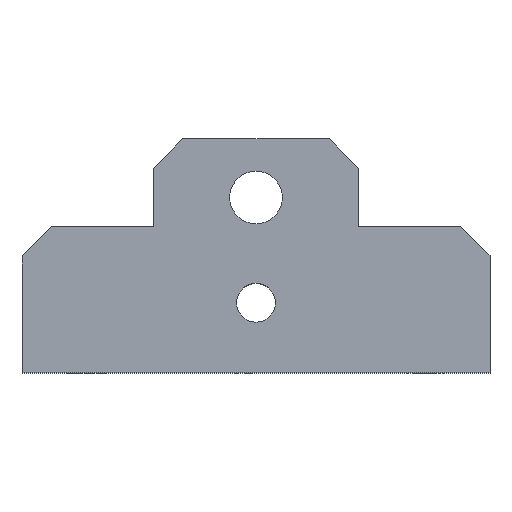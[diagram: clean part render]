
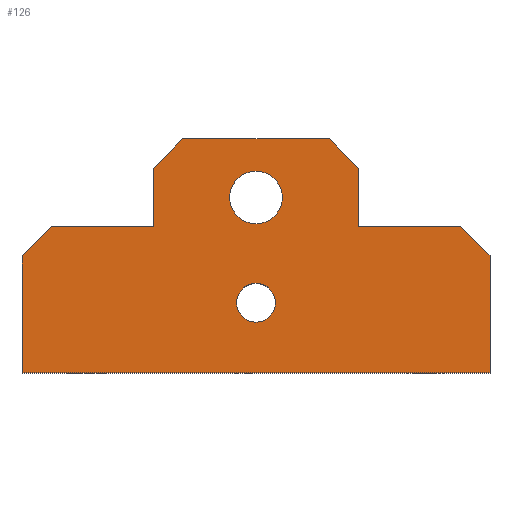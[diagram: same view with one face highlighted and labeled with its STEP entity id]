
A CAD part, top view. The second image highlights one B-rep face of the part: STEP entity #126.
In plain terms, the highlighted planar face has unit normal (0, 0, 1).
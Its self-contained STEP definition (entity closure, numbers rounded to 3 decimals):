
#10 = CARTESIAN_POINT ( 'NONE',  ( 40., -12.5, 6.5 ) ) ;
#13 = DIRECTION ( 'NONE',  ( 0., -1., 0. ) ) ;
#19 = DIRECTION ( 'NONE',  ( -0.707, 0.707, 0. ) ) ;
#25 = EDGE_CURVE ( 'NONE', #77, #579, #806, .T. ) ;
#38 = VECTOR ( 'NONE', #504, 1000. ) ;
#46 = VERTEX_POINT ( 'NONE', #402 ) ;
#65 = FACE_BOUND ( 'NONE', #282, .T. ) ;
#68 = VERTEX_POINT ( 'NONE', #418 ) ;
#72 = CARTESIAN_POINT ( 'NONE',  ( -40., 7.5, 6.5 ) ) ;
#77 = VERTEX_POINT ( 'NONE', #111 ) ;
#91 = ORIENTED_EDGE ( 'NONE', *, *, #25, .F. ) ;
#94 = CARTESIAN_POINT ( 'NONE',  ( 35., 12.5, 6.5 ) ) ;
#108 = ORIENTED_EDGE ( 'NONE', *, *, #853, .T. ) ;
#111 = CARTESIAN_POINT ( 'NONE',  ( 4.5, 17.5, 6.5 ) ) ;
#112 = CARTESIAN_POINT ( 'NONE',  ( -40., -12.5, 6.5 ) ) ;
#115 = EDGE_CURVE ( 'NONE', #130, #354, #869, .T. ) ;
#117 = ORIENTED_EDGE ( 'NONE', *, *, #396, .T. ) ;
#120 = ORIENTED_EDGE ( 'NONE', *, *, #951, .T. ) ;
#123 = EDGE_CURVE ( 'NONE', #306, #46, #870, .T. ) ;
#124 = CARTESIAN_POINT ( 'NONE',  ( -40., 12.5, 6.5 ) ) ;
#126 = ADVANCED_FACE ( 'NONE', ( #65, #158, #946 ), #800, .T. ) ;
#130 = VERTEX_POINT ( 'NONE', #878 ) ;
#134 = CARTESIAN_POINT ( 'NONE',  ( 23.75, 23.75, 6.5 ) ) ;
#135 = AXIS2_PLACEMENT_3D ( 'NONE', #270, #284, #352 ) ;
#139 = CARTESIAN_POINT ( 'NONE',  ( 17.5, 12.5, 6.5 ) ) ;
#142 = DIRECTION ( 'NONE',  ( 0., 1., 0. ) ) ;
#144 = CARTESIAN_POINT ( 'NONE',  ( 0., -0.5, 6.5 ) ) ;
#147 = VERTEX_POINT ( 'NONE', #10 ) ;
#151 = VECTOR ( 'NONE', #13, 1000. ) ;
#158 = FACE_BOUND ( 'NONE', #170, .T. ) ;
#159 = DIRECTION ( 'NONE',  ( 0., 0., 1. ) ) ;
#162 = ORIENTED_EDGE ( 'NONE', *, *, #123, .T. ) ;
#169 = CARTESIAN_POINT ( 'NONE',  ( 20., 20., 6.5 ) ) ;
#170 = EDGE_LOOP ( 'NONE', ( #739, #286 ) ) ;
#171 = ORIENTED_EDGE ( 'NONE', *, *, #115, .T. ) ;
#188 = DIRECTION ( 'NONE',  ( 1., 0., 0. ) ) ;
#212 = CARTESIAN_POINT ( 'NONE',  ( 17.5, 27.5, 6.5 ) ) ;
#213 = VECTOR ( 'NONE', #459, 1000. ) ;
#215 = CIRCLE ( 'NONE', #135, 4.5 ) ;
#223 = VERTEX_POINT ( 'NONE', #438 ) ;
#225 = EDGE_LOOP ( 'NONE', ( #456, #554, #117, #258, #162, #120, #171, #331, #913, #623, #108, #751 ) ) ;
#244 = DIRECTION ( 'NONE',  ( 1., 0., 0. ) ) ;
#258 = ORIENTED_EDGE ( 'NONE', *, *, #470, .T. ) ;
#261 = CARTESIAN_POINT ( 'NONE',  ( -12.5, 27.5, 6.5 ) ) ;
#264 = CARTESIAN_POINT ( 'NONE',  ( 0., -0.5, 6.5 ) ) ;
#270 = CARTESIAN_POINT ( 'NONE',  ( 0., 17.5, 6.5 ) ) ;
#281 = LINE ( 'NONE', #755, #541 ) ;
#282 = EDGE_LOOP ( 'NONE', ( #91, #518 ) ) ;
#284 = DIRECTION ( 'NONE',  ( 0., 0., 1. ) ) ;
#285 = CARTESIAN_POINT ( 'NONE',  ( -23.75, 23.75, 6.5 ) ) ;
#286 = ORIENTED_EDGE ( 'NONE', *, *, #572, .F. ) ;
#294 = AXIS2_PLACEMENT_3D ( 'NONE', #752, #319, #830 ) ;
#306 = VERTEX_POINT ( 'NONE', #743 ) ;
#309 = CIRCLE ( 'NONE', #335, 3.323 ) ;
#319 = DIRECTION ( 'NONE',  ( 0., 0., 1. ) ) ;
#331 = ORIENTED_EDGE ( 'NONE', *, *, #535, .T. ) ;
#332 = LINE ( 'NONE', #169, #490 ) ;
#335 = AXIS2_PLACEMENT_3D ( 'NONE', #264, #627, #758 ) ;
#352 = DIRECTION ( 'NONE',  ( 1., 0., 0. ) ) ;
#353 = DIRECTION ( 'NONE',  ( -0.707, -0.707, 0. ) ) ;
#354 = VERTEX_POINT ( 'NONE', #72 ) ;
#371 = CARTESIAN_POINT ( 'NONE',  ( -17.5, 27.5, 6.5 ) ) ;
#388 = DIRECTION ( 'NONE',  ( 0., -1., 0. ) ) ;
#389 = LINE ( 'NONE', #524, #604 ) ;
#394 = CARTESIAN_POINT ( 'NONE',  ( -40., 12.5, 6.5 ) ) ;
#396 = EDGE_CURVE ( 'NONE', #494, #849, #389, .T. ) ;
#402 = CARTESIAN_POINT ( 'NONE',  ( -17.5, 12.5, 6.5 ) ) ;
#404 = CARTESIAN_POINT ( 'NONE',  ( 12.5, 27.5, 6.5 ) ) ;
#418 = CARTESIAN_POINT ( 'NONE',  ( 40., 7.5, 6.5 ) ) ;
#423 = CARTESIAN_POINT ( 'NONE',  ( 17.5, 22.5, 6.5 ) ) ;
#425 = VERTEX_POINT ( 'NONE', #94 ) ;
#438 = CARTESIAN_POINT ( 'NONE',  ( -3.323, -0.5, 6.5 ) ) ;
#451 = CARTESIAN_POINT ( 'NONE',  ( -4.5, 17.5, 6.5 ) ) ;
#456 = ORIENTED_EDGE ( 'NONE', *, *, #942, .T. ) ;
#459 = DIRECTION ( 'NONE',  ( -0.707, 0.707, 0. ) ) ;
#468 = LINE ( 'NONE', #394, #151 ) ;
#470 = EDGE_CURVE ( 'NONE', #849, #306, #498, .T. ) ;
#486 = VECTOR ( 'NONE', #748, 1000. ) ;
#490 = VECTOR ( 'NONE', #19, 1000. ) ;
#494 = VERTEX_POINT ( 'NONE', #404 ) ;
#498 = LINE ( 'NONE', #616, #486 ) ;
#504 = DIRECTION ( 'NONE',  ( 0., 1., 0. ) ) ;
#518 = ORIENTED_EDGE ( 'NONE', *, *, #938, .F. ) ;
#524 = CARTESIAN_POINT ( 'NONE',  ( -17.5, 27.5, 6.5 ) ) ;
#535 = EDGE_CURVE ( 'NONE', #354, #588, #468, .T. ) ;
#536 = LINE ( 'NONE', #134, #213 ) ;
#541 = VECTOR ( 'NONE', #188, 1000. ) ;
#554 = ORIENTED_EDGE ( 'NONE', *, *, #847, .T. ) ;
#560 = DIRECTION ( 'NONE',  ( -1., 0., 0. ) ) ;
#572 = EDGE_CURVE ( 'NONE', #223, #614, #309, .T. ) ;
#574 = VECTOR ( 'NONE', #353, 1000. ) ;
#576 = LINE ( 'NONE', #124, #781 ) ;
#577 = VECTOR ( 'NONE', #388, 1000. ) ;
#579 = VERTEX_POINT ( 'NONE', #451 ) ;
#588 = VERTEX_POINT ( 'NONE', #112 ) ;
#604 = VECTOR ( 'NONE', #644, 1000. ) ;
#614 = VERTEX_POINT ( 'NONE', #689 ) ;
#616 = CARTESIAN_POINT ( 'NONE',  ( -20., 20., 6.5 ) ) ;
#623 = ORIENTED_EDGE ( 'NONE', *, *, #834, .T. ) ;
#627 = DIRECTION ( 'NONE',  ( 0., 0., 1. ) ) ;
#644 = DIRECTION ( 'NONE',  ( -1., 0., 0. ) ) ;
#646 = VERTEX_POINT ( 'NONE', #423 ) ;
#657 = DIRECTION ( 'NONE',  ( 1., 0., 0. ) ) ;
#658 = EDGE_CURVE ( 'NONE', #588, #147, #281, .T. ) ;
#666 = CARTESIAN_POINT ( 'NONE',  ( 40., 12.5, 6.5 ) ) ;
#669 = EDGE_CURVE ( 'NONE', #425, #720, #576, .T. ) ;
#689 = CARTESIAN_POINT ( 'NONE',  ( 3.323, -0.5, 6.5 ) ) ;
#692 = CIRCLE ( 'NONE', #722, 3.323 ) ;
#703 = EDGE_CURVE ( 'NONE', #614, #223, #692, .T. ) ;
#704 = CARTESIAN_POINT ( 'NONE',  ( -40., 12.5, 6.5 ) ) ;
#720 = VERTEX_POINT ( 'NONE', #139 ) ;
#721 = DIRECTION ( 'NONE',  ( 0., 0., 1. ) ) ;
#722 = AXIS2_PLACEMENT_3D ( 'NONE', #144, #159, #657 ) ;
#739 = ORIENTED_EDGE ( 'NONE', *, *, #703, .F. ) ;
#743 = CARTESIAN_POINT ( 'NONE',  ( -17.5, 22.5, 6.5 ) ) ;
#748 = DIRECTION ( 'NONE',  ( -0.707, -0.707, 0. ) ) ;
#751 = ORIENTED_EDGE ( 'NONE', *, *, #669, .T. ) ;
#752 = CARTESIAN_POINT ( 'NONE',  ( 0., 17.5, 6.5 ) ) ;
#755 = CARTESIAN_POINT ( 'NONE',  ( -40., -12.5, 6.5 ) ) ;
#758 = DIRECTION ( 'NONE',  ( 1., 0., 0. ) ) ;
#781 = VECTOR ( 'NONE', #560, 1000. ) ;
#787 = CARTESIAN_POINT ( 'NONE',  ( 0., 0., 6.5 ) ) ;
#790 = VECTOR ( 'NONE', #142, 1000. ) ;
#800 = PLANE ( 'NONE',  #912 ) ;
#802 = VECTOR ( 'NONE', #852, 1000. ) ;
#806 = CIRCLE ( 'NONE', #294, 4.5 ) ;
#815 = LINE ( 'NONE', #704, #802 ) ;
#829 = LINE ( 'NONE', #212, #790 ) ;
#830 = DIRECTION ( 'NONE',  ( 1., 0., 0. ) ) ;
#834 = EDGE_CURVE ( 'NONE', #147, #68, #950, .T. ) ;
#847 = EDGE_CURVE ( 'NONE', #646, #494, #332, .T. ) ;
#849 = VERTEX_POINT ( 'NONE', #261 ) ;
#852 = DIRECTION ( 'NONE',  ( -1., 0., 0. ) ) ;
#853 = EDGE_CURVE ( 'NONE', #68, #425, #536, .T. ) ;
#869 = LINE ( 'NONE', #285, #574 ) ;
#870 = LINE ( 'NONE', #371, #577 ) ;
#878 = CARTESIAN_POINT ( 'NONE',  ( -35., 12.5, 6.5 ) ) ;
#912 = AXIS2_PLACEMENT_3D ( 'NONE', #787, #721, #244 ) ;
#913 = ORIENTED_EDGE ( 'NONE', *, *, #658, .T. ) ;
#938 = EDGE_CURVE ( 'NONE', #579, #77, #215, .T. ) ;
#942 = EDGE_CURVE ( 'NONE', #720, #646, #829, .T. ) ;
#946 = FACE_OUTER_BOUND ( 'NONE', #225, .T. ) ;
#950 = LINE ( 'NONE', #666, #38 ) ;
#951 = EDGE_CURVE ( 'NONE', #46, #130, #815, .T. ) ;
